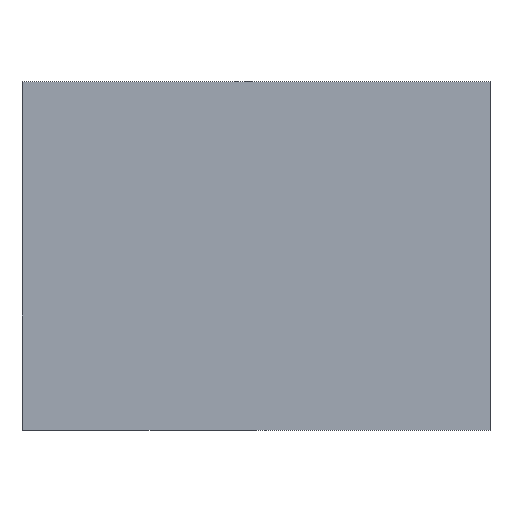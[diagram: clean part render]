
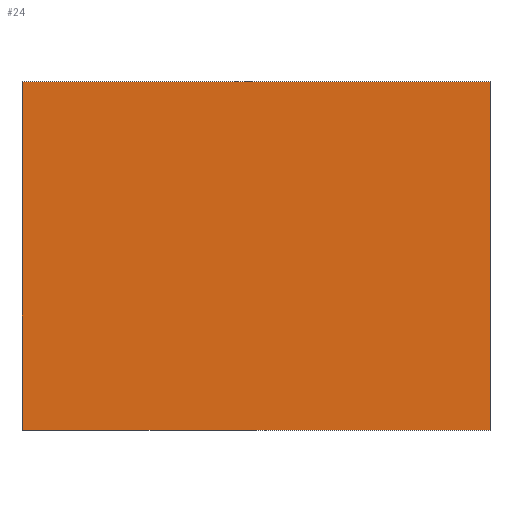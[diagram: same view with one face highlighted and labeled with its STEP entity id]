
A CAD part, top view. The second image highlights one B-rep face of the part: STEP entity #24.
In plain terms, the highlighted planar face has unit normal (0, 0, 1).
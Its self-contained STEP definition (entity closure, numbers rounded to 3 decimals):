
#6 = EDGE_CURVE ( 'NONE', #43, #7, #45, .T. ) ;
#7 = VERTEX_POINT ( 'NONE', #50 ) ;
#8 = CARTESIAN_POINT ( 'NONE',  ( -23.5, -17.5, 10. ) ) ;
#10 = FACE_OUTER_BOUND ( 'NONE', #68, .T. ) ;
#14 = DIRECTION ( 'NONE',  ( 1., 0., 0. ) ) ;
#24 = ADVANCED_FACE ( 'NONE', ( #10 ), #89, .T. ) ;
#32 = CARTESIAN_POINT ( 'NONE',  ( 23.5, 17.5, 10. ) ) ;
#43 = VERTEX_POINT ( 'NONE', #93 ) ;
#45 = LINE ( 'NONE', #32, #61 ) ;
#50 = CARTESIAN_POINT ( 'NONE',  ( 23.5, 17.5, 10. ) ) ;
#61 = VECTOR ( 'NONE', #194, 1000. ) ;
#63 = EDGE_CURVE ( 'NONE', #229, #207, #115, .T. ) ;
#64 = DIRECTION ( 'NONE',  ( 0., -1., 0. ) ) ;
#68 = EDGE_LOOP ( 'NONE', ( #118, #88, #170, #100 ) ) ;
#82 = VECTOR ( 'NONE', #64, 1000. ) ;
#88 = ORIENTED_EDGE ( 'NONE', *, *, #139, .T. ) ;
#89 = PLANE ( 'NONE',  #197 ) ;
#93 = CARTESIAN_POINT ( 'NONE',  ( 23.5, -17.5, 10. ) ) ;
#97 = CARTESIAN_POINT ( 'NONE',  ( -23.5, -17.5, 10. ) ) ;
#100 = ORIENTED_EDGE ( 'NONE', *, *, #216, .T. ) ;
#107 = LINE ( 'NONE', #113, #223 ) ;
#109 = VECTOR ( 'NONE', #146, 1000. ) ;
#113 = CARTESIAN_POINT ( 'NONE',  ( -23.5, 17.5, 10. ) ) ;
#115 = LINE ( 'NONE', #189, #82 ) ;
#118 = ORIENTED_EDGE ( 'NONE', *, *, #63, .T. ) ;
#137 = CARTESIAN_POINT ( 'NONE',  ( 0., 0., 10. ) ) ;
#139 = EDGE_CURVE ( 'NONE', #207, #43, #228, .T. ) ;
#146 = DIRECTION ( 'NONE',  ( 1., 0., 0. ) ) ;
#162 = CARTESIAN_POINT ( 'NONE',  ( -23.5, 17.5, 10. ) ) ;
#170 = ORIENTED_EDGE ( 'NONE', *, *, #6, .T. ) ;
#178 = DIRECTION ( 'NONE',  ( 0., 0., 1. ) ) ;
#189 = CARTESIAN_POINT ( 'NONE',  ( -23.5, 17.5, 10. ) ) ;
#192 = DIRECTION ( 'NONE',  ( -1., 0., 0. ) ) ;
#194 = DIRECTION ( 'NONE',  ( 0., 1., 0. ) ) ;
#197 = AXIS2_PLACEMENT_3D ( 'NONE', #137, #178, #14 ) ;
#207 = VERTEX_POINT ( 'NONE', #8 ) ;
#216 = EDGE_CURVE ( 'NONE', #7, #229, #107, .T. ) ;
#223 = VECTOR ( 'NONE', #192, 1000. ) ;
#228 = LINE ( 'NONE', #97, #109 ) ;
#229 = VERTEX_POINT ( 'NONE', #162 ) ;
